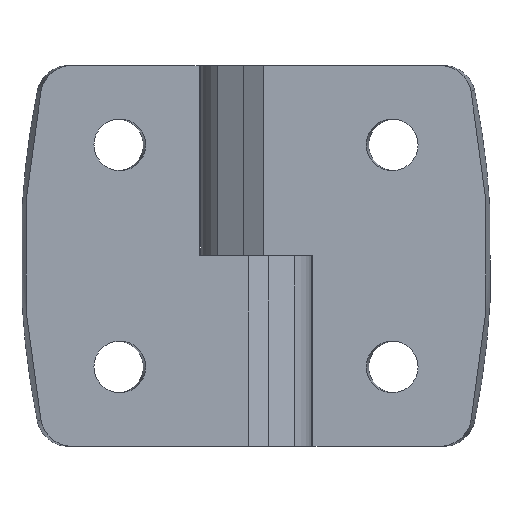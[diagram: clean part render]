
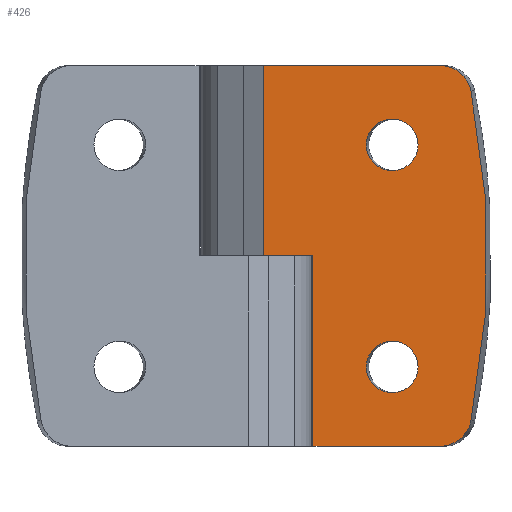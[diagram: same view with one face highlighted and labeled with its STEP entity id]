
A CAD part, top view. The second image highlights one B-rep face of the part: STEP entity #426.
In plain terms, the highlighted free-form (B-spline) face has degree [1, 1] with [2, 2] control points.
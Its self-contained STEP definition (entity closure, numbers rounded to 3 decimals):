
#98=CARTESIAN_POINT('',(-7.183,-5.2,0.0));
#99=VERTEX_POINT('',#98);
#106=CARTESIAN_POINT('',(-7.183,-5.2,-24.0));
#107=VERTEX_POINT('',#106);
#108=CARTESIAN_POINT('',(-7.183,-5.2,0.0));
#109=DIRECTION('',(0.0,0.0,-1.0));
#110=VECTOR('',#109,24.0);
#111=LINE('',#108,#110);
#112=EDGE_CURVE('',#99,#107,#111,.T.);
#137=CARTESIAN_POINT('',(-0.999,-5.2,-24.));
#138=VERTEX_POINT('',#137);
#139=CARTESIAN_POINT('',(-7.183,-5.2,-24.0));
#140=DIRECTION('',(1.0,0.0,0.0));
#141=VECTOR('',#140,6.184);
#142=LINE('',#139,#141);
#143=EDGE_CURVE('',#107,#138,#142,.T.);
#336=CARTESIAN_POINT('',(-23.174,-5.2,0.0));
#337=VERTEX_POINT('',#336);
#344=CARTESIAN_POINT('',(-23.174,-5.2,0.0));
#345=DIRECTION('',(1.0,0.0,0.0));
#346=VECTOR('',#345,15.991);
#347=LINE('',#344,#346);
#348=EDGE_CURVE('',#337,#99,#347,.T.);
#353=CARTESIAN_POINT('',(-0.999,-5.2,-48.));
#354=CARTESIAN_POINT('',(-0.999,-5.2,0.0));
#355=CARTESIAN_POINT('',(-29.211,-5.2,-48.));
#356=CARTESIAN_POINT('',(-29.211,-5.2,0.0));
#357=B_SPLINE_SURFACE_WITH_KNOTS('',1,1,((#353,#355),(#354,#356)),.UNSPECIFIED.,.F.,.F.,.U.,(2,2),(2,2),(0.0,48.),(0.0,28.212),.UNSPECIFIED.);
#358=ORIENTED_EDGE('',*,*,#112,.F.);
#359=ORIENTED_EDGE('',*,*,#348,.F.);
#360=CARTESIAN_POINT('',(-27.105,-5.2,-3.2));
#361=VERTEX_POINT('',#360);
#362=CARTESIAN_POINT('',(-23.174,-5.2,-4.));
#363=DIRECTION('',(0.0,-1.0,0.0));
#364=DIRECTION('',(-1.0,0.0,0.0));
#365=AXIS2_PLACEMENT_3D('',#362,#363,#364);
#366=ELLIPSE('',#365,4.011,4.0);
#367=EDGE_CURVE('',#337,#361,#366,.T.);
#368=ORIENTED_EDGE('',*,*,#367,.T.);
#369=CARTESIAN_POINT('',(-27.105,-5.2,-44.8));
#370=VERTEX_POINT('',#369);
#371=CARTESIAN_POINT('',(75.125,-5.2,-24.));
#372=DIRECTION('',(0.0,1.0,0.0));
#373=DIRECTION('',(1.0,0.0,0.0));
#374=AXIS2_PLACEMENT_3D('',#371,#372,#373);
#375=ELLIPSE('',#374,104.336,104.039);
#376=EDGE_CURVE('',#370,#361,#375,.T.);
#377=ORIENTED_EDGE('',*,*,#376,.F.);
#378=CARTESIAN_POINT('',(-23.174,-5.2,-48.));
#379=VERTEX_POINT('',#378);
#380=CARTESIAN_POINT('',(-23.174,-5.2,-44.));
#381=DIRECTION('',(0.0,-1.0,0.0));
#382=DIRECTION('',(-1.0,0.0,0.0));
#383=AXIS2_PLACEMENT_3D('',#380,#381,#382);
#384=ELLIPSE('',#383,4.011,4.);
#385=EDGE_CURVE('',#370,#379,#384,.T.);
#386=ORIENTED_EDGE('',*,*,#385,.T.);
#387=CARTESIAN_POINT('',(-0.999,-5.2,-48.));
#388=VERTEX_POINT('',#387);
#389=CARTESIAN_POINT('',(-0.999,-5.2,-48.));
#390=DIRECTION('',(-1.0,0.0,0.0));
#391=VECTOR('',#390,22.175);
#392=LINE('',#389,#391);
#393=EDGE_CURVE('',#388,#379,#392,.T.);
#394=ORIENTED_EDGE('',*,*,#393,.F.);
#395=CARTESIAN_POINT('',(-0.999,-5.2,-24.));
#396=DIRECTION('',(0.0,0.0,-1.0));
#397=VECTOR('',#396,24.);
#398=LINE('',#395,#397);
#399=EDGE_CURVE('',#138,#388,#398,.T.);
#400=ORIENTED_EDGE('',*,*,#399,.F.);
#401=ORIENTED_EDGE('',*,*,#143,.F.);
#402=EDGE_LOOP('',(#358,#359,#368,#377,#386,#394,#400,#401));
#403=FACE_OUTER_BOUND('',#402,.T.);
#404=CARTESIAN_POINT('',(-20.424,-5.2,-38.));
#405=VERTEX_POINT('',#404);
#406=CARTESIAN_POINT('',(-17.165,-5.2,-38.));
#407=DIRECTION('',(0.0,-1.0,0.0));
#408=DIRECTION('',(1.0,0.0,0.0));
#409=AXIS2_PLACEMENT_3D('',#406,#407,#408);
#410=ELLIPSE('',#409,3.259,3.25);
#411=EDGE_CURVE('',#405,#405,#410,.T.);
#412=ORIENTED_EDGE('',*,*,#411,.F.);
#413=EDGE_LOOP('',(#412));
#414=FACE_BOUND('',#413,.T.);
#415=CARTESIAN_POINT('',(-20.424,-5.2,-10.));
#416=VERTEX_POINT('',#415);
#417=CARTESIAN_POINT('',(-17.165,-5.2,-10.));
#418=DIRECTION('',(0.0,-1.0,0.0));
#419=DIRECTION('',(1.0,0.0,0.0));
#420=AXIS2_PLACEMENT_3D('',#417,#418,#419);
#421=ELLIPSE('',#420,3.259,3.25);
#422=EDGE_CURVE('',#416,#416,#421,.T.);
#423=ORIENTED_EDGE('',*,*,#422,.F.);
#424=EDGE_LOOP('',(#423));
#425=FACE_BOUND('',#424,.T.);
#426=ADVANCED_FACE('',(#403,#414,#425),#357,.T.);
